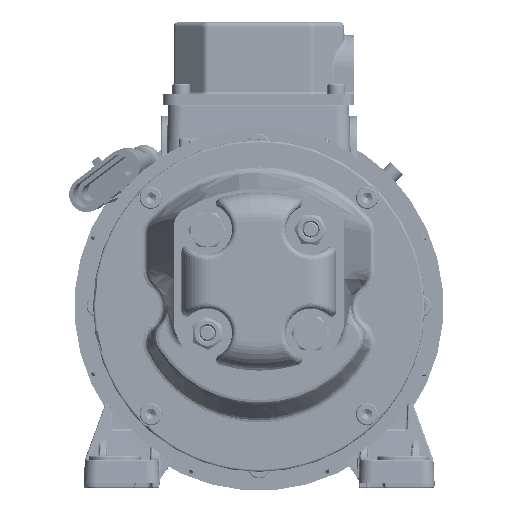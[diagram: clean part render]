
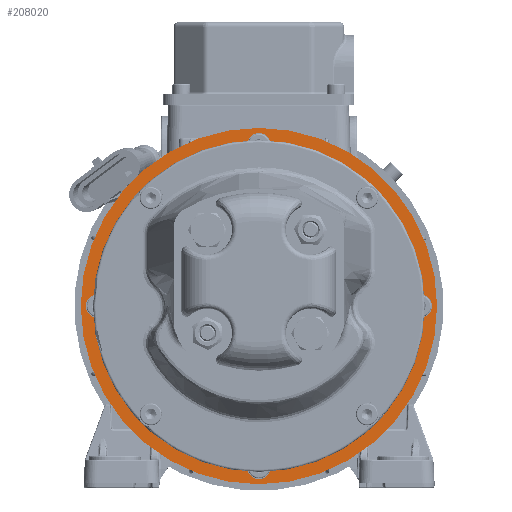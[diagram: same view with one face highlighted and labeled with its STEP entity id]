
A CAD part, left-side view. The second image highlights one B-rep face of the part: STEP entity #208020.
In plain terms, the highlighted planar face has unit normal (-1, 0, 0).
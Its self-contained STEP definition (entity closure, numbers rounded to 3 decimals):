
#7902=PLANE('',#221573);
#45109=FACE_BOUND('',#59774,.T.);
#47387=FACE_OUTER_BOUND('',#59773,.T.);
#59773=EDGE_LOOP('',(#141566));
#59774=EDGE_LOOP('',(#141567,#141568,#141569,#141570,#141571,#141572,#141573,
#141574));
#71831=CIRCLE('',#221574,69.);
#71832=CIRCLE('',#221575,63.75);
#71833=CIRCLE('',#221576,4.5);
#71834=CIRCLE('',#221577,63.75);
#71835=CIRCLE('',#221578,4.5);
#71836=CIRCLE('',#221579,63.75);
#71837=CIRCLE('',#221580,4.5);
#71838=CIRCLE('',#221581,63.75);
#71839=CIRCLE('',#221582,4.5);
#85593=VERTEX_POINT('',#312267);
#85594=VERTEX_POINT('',#312269);
#85595=VERTEX_POINT('',#312270);
#85596=VERTEX_POINT('',#312272);
#85597=VERTEX_POINT('',#312274);
#85598=VERTEX_POINT('',#312276);
#85599=VERTEX_POINT('',#312278);
#85600=VERTEX_POINT('',#312280);
#85601=VERTEX_POINT('',#312282);
#106127=EDGE_CURVE('',#85593,#85593,#71831,.T.);
#106128=EDGE_CURVE('',#85594,#85595,#71832,.T.);
#106129=EDGE_CURVE('',#85594,#85596,#71833,.T.);
#106130=EDGE_CURVE('',#85597,#85596,#71834,.T.);
#106131=EDGE_CURVE('',#85597,#85598,#71835,.T.);
#106132=EDGE_CURVE('',#85599,#85598,#71836,.T.);
#106133=EDGE_CURVE('',#85599,#85600,#71837,.T.);
#106134=EDGE_CURVE('',#85601,#85600,#71838,.T.);
#106135=EDGE_CURVE('',#85601,#85595,#71839,.T.);
#141566=ORIENTED_EDGE('',*,*,#106127,.F.);
#141567=ORIENTED_EDGE('',*,*,#106128,.F.);
#141568=ORIENTED_EDGE('',*,*,#106129,.T.);
#141569=ORIENTED_EDGE('',*,*,#106130,.F.);
#141570=ORIENTED_EDGE('',*,*,#106131,.T.);
#141571=ORIENTED_EDGE('',*,*,#106132,.F.);
#141572=ORIENTED_EDGE('',*,*,#106133,.T.);
#141573=ORIENTED_EDGE('',*,*,#106134,.F.);
#141574=ORIENTED_EDGE('',*,*,#106135,.T.);
#208020=ADVANCED_FACE('',(#47387,#45109),#7902,.T.);
#221573=AXIS2_PLACEMENT_3D('',#312266,#251578,#251579);
#221574=AXIS2_PLACEMENT_3D('',#312268,#251580,#251581);
#221575=AXIS2_PLACEMENT_3D('',#312271,#251582,#251583);
#221576=AXIS2_PLACEMENT_3D('',#312273,#251584,#251585);
#221577=AXIS2_PLACEMENT_3D('',#312275,#251586,#251587);
#221578=AXIS2_PLACEMENT_3D('',#312277,#251588,#251589);
#221579=AXIS2_PLACEMENT_3D('',#312279,#251590,#251591);
#221580=AXIS2_PLACEMENT_3D('',#312281,#251592,#251593);
#221581=AXIS2_PLACEMENT_3D('',#312283,#251594,#251595);
#221582=AXIS2_PLACEMENT_3D('',#312284,#251596,#251597);
#251578=DIRECTION('center_axis',(-1.,0.,0.));
#251579=DIRECTION('ref_axis',(0.,0.,
1.));
#251580=DIRECTION('center_axis',(1.,0.,0.));
#251581=DIRECTION('ref_axis',(0.,0.,
-1.));
#251582=DIRECTION('center_axis',(-1.,0.,0.));
#251583=DIRECTION('ref_axis',(0.,-1.,0.));
#251584=DIRECTION('center_axis',(1.,0.,0.));
#251585=DIRECTION('ref_axis',(0.,1.,0.));
#251586=DIRECTION('center_axis',(-1.,0.,0.));
#251587=DIRECTION('ref_axis',(0.,-1.,0.));
#251588=DIRECTION('center_axis',(1.,0.,0.));
#251589=DIRECTION('ref_axis',(0.,0.,
1.));
#251590=DIRECTION('center_axis',(-1.,0.,0.));
#251591=DIRECTION('ref_axis',(0.,-1.,0.));
#251592=DIRECTION('center_axis',(1.,0.,0.));
#251593=DIRECTION('ref_axis',(0.,-1.,0.));
#251594=DIRECTION('center_axis',(-1.,0.,0.));
#251595=DIRECTION('ref_axis',(0.,-1.,0.));
#251596=DIRECTION('center_axis',(1.,0.,0.));
#251597=DIRECTION('ref_axis',(0.,0.,
-1.));
#312266=CARTESIAN_POINT('Origin',(-130.5,69.,0.));
#312267=CARTESIAN_POINT('',(-130.5,-69.,0.));
#312268=CARTESIAN_POINT('Origin',(-130.5,0.,0.));
#312269=CARTESIAN_POINT('',(-130.5,-4.363,-63.601));
#312270=CARTESIAN_POINT('',(-130.5,-63.601,-4.363));
#312271=CARTESIAN_POINT('Origin',(-130.5,0.,0.));
#312272=CARTESIAN_POINT('',(-130.5,4.363,-63.601));
#312273=CARTESIAN_POINT('Origin',(-130.5,0.,-62.5));
#312274=CARTESIAN_POINT('',(-130.5,63.601,-4.363));
#312275=CARTESIAN_POINT('Origin',(-130.5,0.,0.));
#312276=CARTESIAN_POINT('',(-130.5,63.601,4.363));
#312277=CARTESIAN_POINT('Origin',(-130.5,62.5,0.));
#312278=CARTESIAN_POINT('',(-130.5,4.363,63.601));
#312279=CARTESIAN_POINT('Origin',(-130.5,0.,0.));
#312280=CARTESIAN_POINT('',(-130.5,-4.363,63.601));
#312281=CARTESIAN_POINT('Origin',(-130.5,0.,62.5));
#312282=CARTESIAN_POINT('',(-130.5,-63.601,4.363));
#312283=CARTESIAN_POINT('Origin',(-130.5,0.,0.));
#312284=CARTESIAN_POINT('Origin',(-130.5,-62.5,0.));
